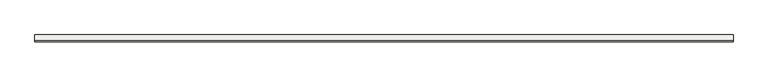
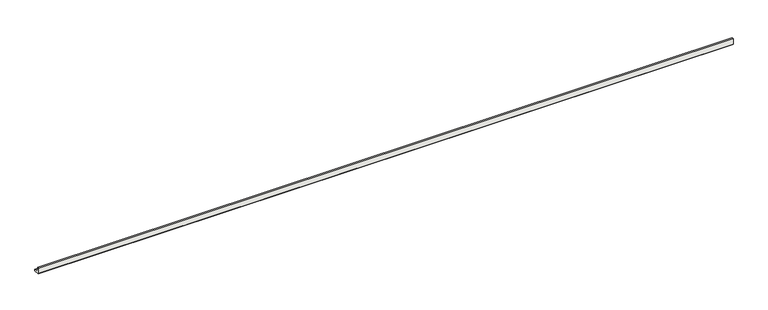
"""IFC4 building model written with IfcOpenShell, lengths in millimetres: slab geometry, ROSA GRES_188 : Pieza 188_Tresor_Bali_Anti-Slip."""

from ifc_helpers import new_model, si_unit, point, frame, frame_2d, origin, place, context, project, spatial, polyline, circle_curve, trimmed, segment, composite_curve, outline, extrude, source, transform, mapped, element, save


def slab_95e0f922(model_context):
    return source(origin(), model_context, "Body", "SweptSolid", [
        extrude(outline(composite_curve([segment(polyline([(0.0, 8.7114978), (0.0, 40.0), (9.9734114, 40.0)]), True, "CONTINUOUS"), segment(trimmed(circle_curve(frame_2d((39.9955547, 39.9955547)), 30.0221435), [point((9.9734114, 40.0))], [point((40.0, 9.9734114))], True, "CARTESIAN"), True, "CONTINUOUS"), segment(polyline([(40.0, 9.9734114), (40.0, 0.0), (8.7114978, 0.0), (0.0, 8.7114978)]), True, "CONTINUOUS")], self_intersect=False)), frame((0.0, 0.0, 0.0), z_axis=(1.0, 0.0, 0.0), x_axis=(0.0, 1.0, 0.0)), (0.0, 0.0, 1.0), 4009.7234114),
    ])


if __name__ == "__main__":
    model = new_model("IFC4")
    model_context = context("Model", 3, world=origin())
    ifc_project = project(units=[si_unit("LENGTHUNIT", "METRE", prefix="MILLI")], contexts=[model_context])
    site = spatial("IfcSite", under=ifc_project)
    building = spatial("IfcBuilding", under=site)
    placement = place(None, origin())
    slab_shape = slab_95e0f922(model_context)
    element("IfcSlab", 1, ObjectType="ROSA GRES_188 : Pieza 188_Tresor_Bali_Anti-Slip", at=placement, inside=building, context=model_context, shape_type="MappedRepresentation", body=[
        mapped(slab_shape, transform((0.0, 0.0, 0.0), x_axis=(1.0, 0.0, 0.0), y_axis=(0.0, 1.0, 0.0), z_axis=(0.0, 0.0, 1.0))),
    ])
    save(model, "model.ifc")
